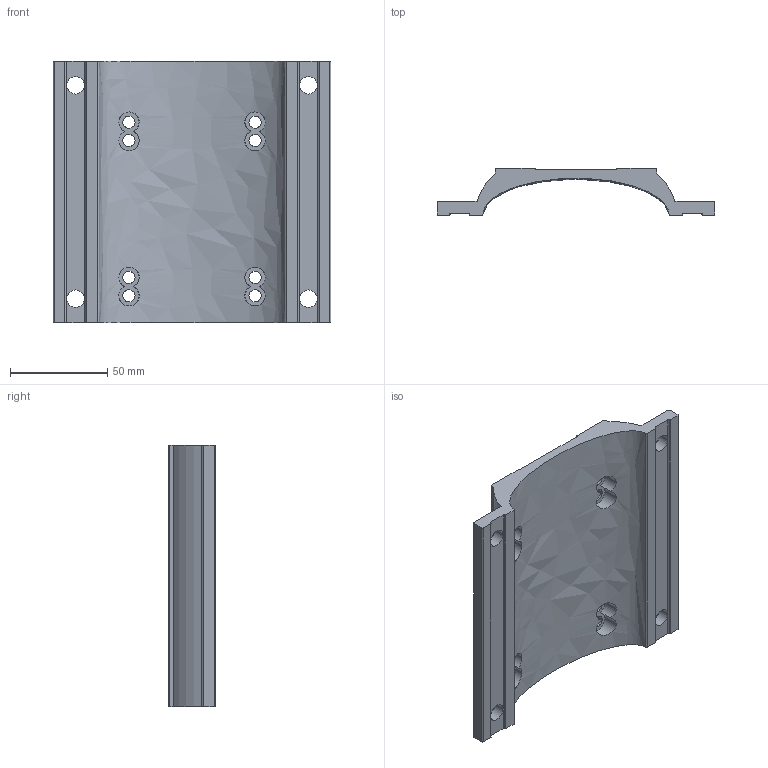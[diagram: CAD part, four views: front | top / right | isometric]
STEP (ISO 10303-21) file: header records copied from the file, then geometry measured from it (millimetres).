
FILE_DESCRIPTION (( 'STEP AP214' ), '1' );
FILE_NAME ('Fuß 2243164.STEP', '2017-08-25T06:14:51', ( 'gfeller' ), ( '' ), 'SwSTEP 2.0', 'SolidWorks 2017', '' );
FILE_SCHEMA (( 'AUTOMOTIVE_DESIGN' ));
Length unit declared in the file: millimetre
Products named in the file (1): Fuﾟ 2243164
Bounding box: 143 x 24 x 135 mm (x, y, z)
Volume: 142642.8 mm3; surface area: 49243 mm2
Topology: 1 solids, 1 shells, 94 faces, 260 edges, 168 vertices
Faces by surface type: cylinder 68, plane 25, bspline 1
Entity records: 3605 total; most frequent: CARTESIAN_POINT 1076, DIRECTION 534, ORIENTED_EDGE 520, EDGE_CURVE 260, AXIS2_PLACEMENT_3D 206, VERTEX_POINT 168, VECTOR 122, LINE 122
